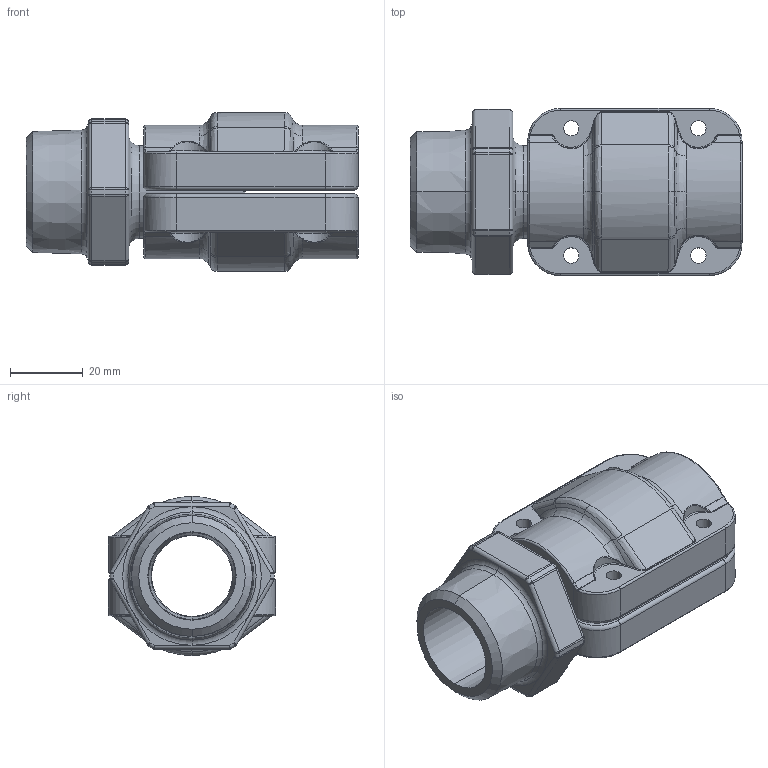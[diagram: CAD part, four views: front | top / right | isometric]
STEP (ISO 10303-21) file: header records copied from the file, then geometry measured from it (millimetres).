
FILE_DESCRIPTION((''),'2;1');
FILE_NAME('AU15221799_ASM_7_ASM','2017-05-16T',('Administrator'),(''),'PRO/ENGINEER BY PARAMETRIC TECHNOLOGY CORPORATION, 2009360','PRO/ENGINEER BY PARAMETRIC TECHNOLOGY CORPORATION, 2009360','');
FILE_SCHEMA(('AUTOMOTIVE_DESIGN_CC2 { 1 2 10303 214 -1 1 5 2 }'));
Length unit declared in the file: millimetre
Products named in the file (5): AU15221700_1; 201520020000_23_1; 201520020001_10_1; 2015200200_ASM_1_ASM; AU15221799_ASM_7_ASM
Assembly tree (4 placements, depth 3):
  AU15221799_ASM_7_ASM
    AU15221700_1
    2015200200_ASM_1_ASM
      201520020000_23_1
      201520020001_10_1
Bounding box: 91.41 x 46 x 43.8 mm (x, y, z)
Volume: 72433 mm3; surface area: 29244.8 mm2
Topology: 3 solids, 3 shells, 424 faces, 986 edges, 538 vertices
Faces by surface type: bspline 144, cylinder 132, torus 72, plane 38, sphere 32, cone 6
Entity records: 19803 total; most frequent: CARTESIAN_POINT 8367, ORIENTED_EDGE 1908, DIRECTION 1594, PRESENTATION_STYLE_ASSIGNMENT 957, STYLED_ITEM 957, CURVE_STYLE 954, EDGE_CURVE 954, AXIS2_PLACEMENT_3D 691
